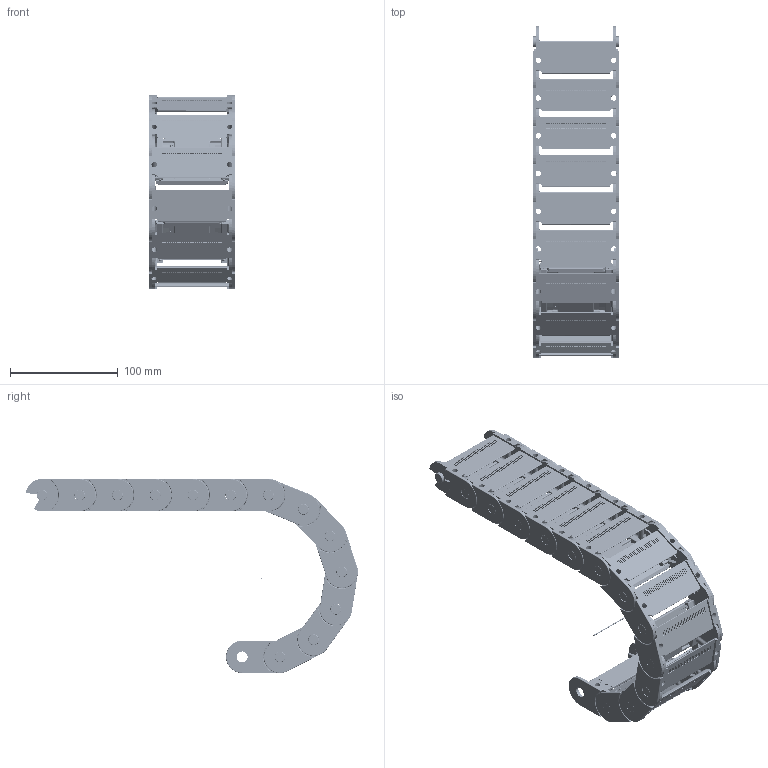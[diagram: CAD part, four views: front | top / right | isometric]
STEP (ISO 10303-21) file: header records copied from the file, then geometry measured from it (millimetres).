
FILE_DESCRIPTION((''),'2;1');
FILE_NAME('C:\Uebbing\PARAMETERKETTEN\KOLIBRI\Kol_30_080_2\Kol_30_080_2_R75.stp','2012-03-05T11:10:06',('Uebbing'),(''),'Autodesk Inventor 10','Autodesk Inventor 10','');
FILE_SCHEMA(('AUTOMOTIVE_DESIGN { 1 0 10303 214 1 1 1 1 }'));
Length unit declared in the file: millimetre
Products named in the file (5): KOLIBRI 30_080_2_PARAMETRISCH; Achse; Kol_30_080_2_Glied; Kol 30_080_2_ Lasche; Kol 30_080_0 Klappsteg
Assembly tree (16 placements, depth 3):
  KOLIBRI 30_080_2_PARAMETRISCH
    Achse
    Kol_30_080_2_Glied  x13
      Kol 30_080_2_ Lasche
      Kol 30_080_0 Klappsteg
Bounding box: 80 x 307.64 x 180 mm (x, y, z)
Volume: 286329.3 mm3; surface area: 232607.6 mm2
Topology: 27 solids, 27 shells, 12496 faces, 33895 edges, 22285 vertices
Faces by surface type: plane 6372, bspline 3497, cylinder 2367, torus 169, cone 52, sphere 39
Full cylindrical faces by diameter (mm): 1 x1, 1.166 x13, 2.048 x13, 2.8 x78, 5.1 x13, 10 x13, 10.1 x13
Entity records: 33317 total; most frequent: CARTESIAN_POINT 10058, ORIENTED_EDGE 5136, DIRECTION 4179, EDGE_CURVE 2568, VERTEX_POINT 1703, VECTOR 1693, LINE 1693, AXIS2_PLACEMENT_3D 1243
